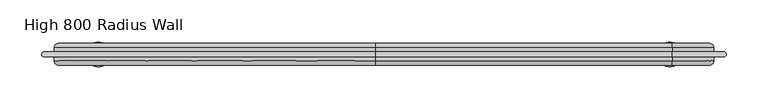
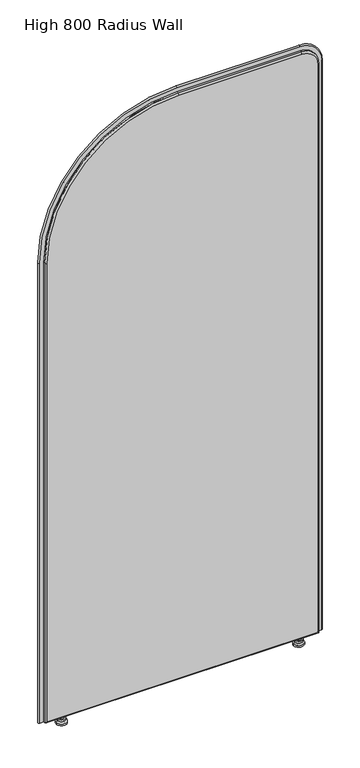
"""IFC4 building model written with IfcOpenShell, lengths in millimetres: furniture geometry, DBLTD_Sixteen3_PrivacyScreens_Artus_ArchRadius : High 800 Radius Wall."""

from ifc_helpers import new_model, si_unit, point, frame, origin, place, context, project, spatial, polyline, circle_curve, ellipse_curve, trimmed, source, transform, mapped, element, save
from ifc_brep_helpers import plane_surface, cylinder_surface, revolved_surface, advanced_brep


def high_800_radius_wall_8716b8e9(model_context):
    return source(origin(), model_context, "Body", "AdvancedBrep", [
        advanced_brep(
        [(342.2938623, 820.0, 22.0), (349.2938623, 820.0, 22.0), (335.2938623, 820.0, 22.0), (349.2938623, 820.0, 15.0), (335.2938623, 820.0, 15.0), (353.744562, 820.0, 15.0), (330.8431626, 820.0, 15.0), (353.744562, 820.0, 10.0), (330.8431626, 820.0, 10.0), (357.2938623, 820.0, 5.0), (327.2938623, 820.0, 5.0), (357.2938623, 820.0, 0.0), (327.2938623, 820.0, 0.0), (342.2938623, 820.0, 0.0)],
        [
            (0, 1),
            (1, 2, circle_curve(frame((342.2938623, 820.0, 22.0), z_axis=(0.0, 0.0, 1.0), x_axis=(1.0, 0.0, 0.0)), 7.0)),
            (2, 0),
            (2, 1, circle_curve(frame((342.2938623, 820.0, 22.0), z_axis=(0.0, 0.0, 1.0), x_axis=(1.0, 0.0, 0.0)), 7.0)),
            (1, 3),
            (3, 4, circle_curve(frame((342.2938623, 820.0, 15.0), z_axis=(0.0, 0.0, 1.0), x_axis=(1.0, 0.0, 0.0)), 7.0)),
            (4, 2),
            (4, 3, circle_curve(frame((342.2938623, 820.0, 15.0), z_axis=(0.0, 0.0, 1.0), x_axis=(1.0, 0.0, 0.0)), 7.0)),
            (3, 5),
            (5, 6, circle_curve(frame((342.2938623, 820.0, 15.0), z_axis=(0.0, 0.0, 1.0), x_axis=(1.0, 0.0, 0.0)), 11.4506997)),
            (6, 4),
            (6, 5, circle_curve(frame((342.2938623, 820.0, 15.0), z_axis=(0.0, 0.0, 1.0), x_axis=(1.0, 0.0, 0.0)), 11.4506997)),
            (5, 7),
            (7, 8, circle_curve(frame((342.2938623, 820.0, 10.0), z_axis=(0.0, 0.0, 1.0), x_axis=(1.0, 0.0, 0.0)), 11.4506997)),
            (8, 6),
            (8, 7, circle_curve(frame((342.2938623, 820.0, 10.0), z_axis=(0.0, 0.0, 1.0), x_axis=(1.0, 0.0, 0.0)), 11.4506997)),
            (7, 9),
            (9, 10, circle_curve(frame((342.2938623, 820.0, 5.0), z_axis=(0.0, 0.0, 1.0), x_axis=(1.0, 0.0, 0.0)), 15.0)),
            (10, 8),
            (10, 9, circle_curve(frame((342.2938623, 820.0, 5.0), z_axis=(0.0, 0.0, 1.0), x_axis=(1.0, 0.0, 0.0)), 15.0)),
            (9, 11),
            (11, 12, circle_curve(frame((342.2938623, 820.0, 0.0), z_axis=(0.0, 0.0, 1.0), x_axis=(1.0, 0.0, 0.0)), 15.0)),
            (12, 10),
            (12, 11, circle_curve(frame((342.2938623, 820.0, 0.0), z_axis=(0.0, 0.0, 1.0), x_axis=(1.0, 0.0, 0.0)), 15.0)),
            (11, 13),
            (13, 12),
        ],
        [
            plane_surface(frame((342.2938623, 820.0, 22.0), z_axis=(0.0, 0.0, 1.0), x_axis=(1.0, 0.0, 0.0))),
            cylinder_surface(frame((342.2938623, 820.0, 5.0), z_axis=(0.0, 0.0, 1.0), x_axis=(1.0, 0.0, 0.0)), 7.0),
            plane_surface(frame((342.2938623, 820.0, 15.0), z_axis=(0.0, 0.0, 1.0), x_axis=(1.0, 0.0, 0.0))),
            cylinder_surface(frame((342.2938623, 820.0, 5.0), z_axis=(0.0, 0.0, 1.0), x_axis=(1.0, 0.0, 0.0)), 11.4506997),
            revolved_surface(polyline([(357.2938623, 820.0, 5.0), (353.744562, 820.0, 10.0)]), (342.2938623, 820.0, 5.0), (0.0, 0.0, 1.0)),
            cylinder_surface(frame((342.2938623, 820.0, 5.0), z_axis=(0.0, 0.0, 1.0), x_axis=(1.0, 0.0, 0.0)), 15.0),
            plane_surface(frame((342.2938623, 820.0, 0.0), z_axis=(0.0, 0.0, -1.0), x_axis=(1.0, 0.0, 0.0))),
        ],
        [
            (0, [[1, 2, 3]]),
            (0, [[-3, 4, -1]]),
            (1, [[-2, 5, 6, 7]]),
            (1, [[-4, -7, 8, -5]]),
            (2, [[-6, 9, 10, 11]]),
            (2, [[-8, -11, 12, -9]]),
            (3, [[-10, 13, 14, 15]]),
            (3, [[-12, -15, 16, -13]]),
            (4, [[-14, 17, 18, 19]]),
            (4, [[-16, -19, 20, -17]]),
            (5, [[-18, 21, 22, 23]]),
            (5, [[-20, -23, 24, -21]]),
            (6, [[-22, 25, 26]]),
            (6, [[-24, -26, -25]]),
        ],
    ),
        advanced_brep(
        [(-335.2938623, 820.0, 22.0), (-349.2938623, 820.0, 22.0), (-342.2938623, 820.0, 22.0), (-335.2938623, 820.0, 15.0), (-349.2938623, 820.0, 15.0), (-330.8431626, 820.0, 15.0), (-353.744562, 820.0, 15.0), (-330.8431626, 820.0, 10.0), (-353.744562, 820.0, 10.0), (-327.2938623, 820.0, 5.0), (-357.2938623, 820.0, 5.0), (-327.2938623, 820.0, 0.0), (-357.2938623, 820.0, 0.0), (-342.2938623, 820.0, 0.0)],
        [
            (0, 1, circle_curve(frame((-342.2938623, 820.0, 22.0), z_axis=(0.0, 0.0, 1.0), x_axis=(-1.0, 0.0, 0.0)), 7.0)),
            (1, 2),
            (2, 0),
            (1, 0, circle_curve(frame((-342.2938623, 820.0, 22.0), z_axis=(0.0, 0.0, 1.0), x_axis=(-1.0, 0.0, 0.0)), 7.0)),
            (3, 4, circle_curve(frame((-342.2938623, 820.0, 15.0), z_axis=(0.0, 0.0, 1.0), x_axis=(-1.0, 0.0, 0.0)), 7.0)),
            (4, 1),
            (0, 3),
            (4, 3, circle_curve(frame((-342.2938623, 820.0, 15.0), z_axis=(0.0, 0.0, 1.0), x_axis=(-1.0, 0.0, 0.0)), 7.0)),
            (5, 6, circle_curve(frame((-342.2938623, 820.0, 15.0), z_axis=(0.0, 0.0, 1.0), x_axis=(-1.0, 0.0, 0.0)), 11.4506997)),
            (6, 4),
            (3, 5),
            (6, 5, circle_curve(frame((-342.2938623, 820.0, 15.0), z_axis=(0.0, 0.0, 1.0), x_axis=(-1.0, 0.0, 0.0)), 11.4506997)),
            (7, 8, circle_curve(frame((-342.2938623, 820.0, 10.0), z_axis=(0.0, 0.0, 1.0), x_axis=(-1.0, 0.0, 0.0)), 11.4506997)),
            (8, 6),
            (5, 7),
            (8, 7, circle_curve(frame((-342.2938623, 820.0, 10.0), z_axis=(0.0, 0.0, 1.0), x_axis=(-1.0, 0.0, 0.0)), 11.4506997)),
            (9, 10, circle_curve(frame((-342.2938623, 820.0, 5.0), z_axis=(0.0, 0.0, 1.0), x_axis=(-1.0, 0.0, 0.0)), 15.0)),
            (10, 8),
            (7, 9),
            (10, 9, circle_curve(frame((-342.2938623, 820.0, 5.0), z_axis=(0.0, 0.0, 1.0), x_axis=(-1.0, 0.0, 0.0)), 15.0)),
            (11, 12, circle_curve(frame((-342.2938623, 820.0, 0.0), z_axis=(0.0, 0.0, 1.0), x_axis=(-1.0, 0.0, 0.0)), 15.0)),
            (12, 10),
            (9, 11),
            (12, 11, circle_curve(frame((-342.2938623, 820.0, 0.0), z_axis=(0.0, 0.0, 1.0), x_axis=(-1.0, 0.0, 0.0)), 15.0)),
            (13, 12),
            (11, 13),
        ],
        [
            plane_surface(frame((-342.2938623, 820.0, 22.0), z_axis=(0.0, 0.0, 1.0), x_axis=(-1.0, 0.0, 0.0))),
            cylinder_surface(frame((-342.2938623, 820.0, 5.0), z_axis=(0.0, 0.0, -1.0), x_axis=(-1.0, 0.0, 0.0)), 7.0),
            plane_surface(frame((-342.2938623, 820.0, 15.0), z_axis=(0.0, 0.0, 1.0), x_axis=(-1.0, 0.0, 0.0))),
            cylinder_surface(frame((-342.2938623, 820.0, 5.0), z_axis=(0.0, 0.0, -1.0), x_axis=(-1.0, 0.0, 0.0)), 11.4506997),
            revolved_surface(polyline([(-353.744562, 820.0, 10.0), (-357.2938623, 820.0, 5.0)]), (-342.2938623, 820.0, 5.0), (0.0, 0.0, -1.0)),
            cylinder_surface(frame((-342.2938623, 820.0, 5.0), z_axis=(0.0, 0.0, -1.0), x_axis=(-1.0, 0.0, 0.0)), 15.0),
            plane_surface(frame((-342.2938623, 820.0, 0.0), z_axis=(0.0, 0.0, -1.0), x_axis=(-1.0, 0.0, 0.0))),
        ],
        [
            (0, [[1, 2, 3]]),
            (0, [[4, -3, -2]]),
            (1, [[5, 6, -1, 7]]),
            (1, [[8, -7, -4, -6]]),
            (2, [[9, 10, -5, 11]]),
            (2, [[12, -11, -8, -10]]),
            (3, [[13, 14, -9, 15]]),
            (3, [[16, -15, -12, -14]]),
            (4, [[17, 18, -13, 19]]),
            (4, [[20, -19, -16, -18]]),
            (5, [[21, 22, -17, 23]]),
            (5, [[24, -23, -20, -22]]),
            (6, [[25, -21, 26]]),
            (6, [[-26, -24, -25]]),
        ],
    ),
        advanced_brep(
        [(-390.0, 807.0, 27.0), (390.0, 807.0, 27.0), (390.0, 807.0, 1760.0), (345.0, 807.0, 1805.0), (-10.0, 807.0, 1805.0), (-390.0, 807.0, 1425.0), (390.0, 833.0, 27.0), (-390.0, 833.0, 27.0), (-390.0, 833.0, 1425.0), (-10.0, 833.0, 1805.0), (345.0, 833.0, 1805.0), (390.0, 833.0, 1760.0), (345.0, 811.9999958, 1810.0), (345.0, 828.0, 1810.0), (-10.0, 828.0, 1810.0), (-10.0, 812.0, 1810.0), (-395.0, 828.0, 1425.0), (-395.0, 811.9999957, 1425.0), (-395.0, 828.0, 22.0), (-395.0, 812.0, 22.0), (395.0, 828.0, 22.0), (395.0, 812.0, 22.0), (395.0, 828.0, 1760.0), (395.0, 812.0, 1760.0)],
        [
            (0, 1),
            (1, 2),
            (2, 3, circle_curve(frame((345.0, 807.0, 1760.0), z_axis=(0.0, -1.0, 0.0), x_axis=(1.0, 0.0, 0.0)), 45.0)),
            (3, 4),
            (4, 5, circle_curve(frame((-10.0, 807.0, 1425.0), z_axis=(0.0, -1.0, 0.0), x_axis=(0.0, 0.0, 1.0)), 380.0)),
            (5, 0),
            (6, 7),
            (7, 8),
            (8, 9, circle_curve(frame((-10.0, 833.0, 1425.0), z_axis=(0.0, 1.0, 0.0), x_axis=(0.0, 0.0, 1.0)), 380.0)),
            (9, 10),
            (10, 11, circle_curve(frame((345.0, 833.0, 1760.0), z_axis=(0.0, 1.0, 0.0), x_axis=(1.0, 0.0, 0.0)), 45.0)),
            (11, 6),
            (12, 13),
            (13, 14),
            (14, 15),
            (15, 12),
            (14, 16, circle_curve(frame((-10.0, 828.0, 1425.0), z_axis=(0.0, -1.0, 0.0), x_axis=(1.0, 0.0, 0.0)), 385.0)),
            (16, 17),
            (17, 15, circle_curve(frame((-10.0, 812.0, 1425.0), z_axis=(0.0, 1.0, 0.0), x_axis=(1.0, 0.0, 0.0)), 385.0)),
            (16, 18),
            (18, 19),
            (19, 17),
            (18, 20),
            (20, 21),
            (21, 19),
            (20, 22),
            (22, 23),
            (23, 21),
            (12, 23, circle_curve(frame((345.0, 812.0, 1760.0), z_axis=(0.0, 1.0, 0.0), x_axis=(1.0, 0.0, 0.0)), 50.0)),
            (22, 13, circle_curve(frame((345.0, 828.0, 1760.0), z_axis=(0.0, -1.0, 0.0), x_axis=(1.0, 0.0, 0.0)), 50.0)),
            (21, 1, ellipse_curve(frame((390.0, 812.0, 27.0), z_axis=(-0.7071067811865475, 0.0, -0.7071067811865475), x_axis=(0.7071067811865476, 0.0, -0.7071067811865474)), 7.0710678, 5.0)),
            (0, 19, ellipse_curve(frame((-390.0, 812.0, 27.0), z_axis=(0.7071067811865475, 0.0, -0.7071067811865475), x_axis=(0.7071067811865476, 0.0, 0.7071067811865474)), 7.0710678, 5.0)),
            (6, 20, ellipse_curve(frame((390.0, 828.0, 27.0), z_axis=(-0.7071067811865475, 0.0, -0.7071067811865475), x_axis=(0.7071067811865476, 0.0, -0.7071067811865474)), 7.0710678, 5.0)),
            (18, 7, ellipse_curve(frame((-390.0, 828.0, 27.0), z_axis=(0.7071067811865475, 0.0, -0.7071067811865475), x_axis=(0.7071067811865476, 0.0, 0.7071067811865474)), 7.0710678, 5.0)),
            (23, 2, circle_curve(frame((390.0, 812.0, 1760.0), z_axis=(0.0, 0.0, -1.0), x_axis=(1.0, 0.0, 0.0)), 5.0)),
            (11, 22, circle_curve(frame((390.0, 828.0, 1760.0), z_axis=(0.0, 0.0, -1.0), x_axis=(1.0, 0.0, 0.0)), 5.0)),
            (12, 3, circle_curve(frame((345.0, 812.0, 1805.0), z_axis=(1.0, 0.0, 0.0), x_axis=(0.0, 0.0, 1.0)), 5.0)),
            (10, 13, circle_curve(frame((345.0, 828.0, 1805.0), z_axis=(1.0, 0.0, 0.0), x_axis=(0.0, 0.0, 1.0)), 5.0)),
            (15, 4, circle_curve(frame((-10.0, 812.0, 1805.0), z_axis=(1.0, 0.0, 0.0), x_axis=(0.0, 0.0, 1.0)), 5.0)),
            (9, 14, circle_curve(frame((-10.0, 828.0, 1805.0), z_axis=(1.0, 0.0, 0.0), x_axis=(0.0, 0.0, 1.0)), 5.0)),
            (17, 5, circle_curve(frame((-390.0, 812.0, 1425.0), z_axis=(0.0, 0.0, 1.0), x_axis=(-1.0, 0.0, 0.0)), 5.0)),
            (8, 16, circle_curve(frame((-390.0, 828.0, 1425.0), z_axis=(0.0, 0.0, 1.0), x_axis=(-1.0, 0.0, 0.0)), 5.0)),
        ],
        [
            plane_surface(frame((-10.0, 807.0, 1810.0), z_axis=(0.0, -1.0, 0.0), x_axis=(-1.0, 0.0, 0.0))),
            plane_surface(frame((-10.0, 833.0, 1810.0), z_axis=(0.0, 1.0, 0.0), x_axis=(1.0, 0.0, 0.0))),
            plane_surface(frame((345.0, 807.0, 1810.0), z_axis=(0.0, 0.0, 1.0), x_axis=(0.0, 1.0, 0.0))),
            cylinder_surface(frame((-10.0, 833.0, 1425.0), z_axis=(0.0, -1.0, 0.0), x_axis=(1.0, 0.0, 0.0)), 385.0),
            plane_surface(frame((-395.0, 807.0, 1425.0), z_axis=(-1.0, 0.0, 0.0), x_axis=(0.0, 1.0, 0.0))),
            plane_surface(frame((-395.0, 807.0, 22.0), z_axis=(0.0, 0.0, -1.0), x_axis=(0.0, 1.0, 0.0))),
            plane_surface(frame((395.0, 807.0, 22.0), z_axis=(1.0, 0.0, 0.0), x_axis=(0.0, 1.0, 0.0))),
            cylinder_surface(frame((345.0, 833.0, 1760.0), z_axis=(0.0, -1.0, 0.0), x_axis=(1.0, 0.0, 0.0)), 50.0),
            cylinder_surface(frame((-395.0, 812.0, 27.0), z_axis=(1.0, 0.0, 0.0), x_axis=(0.0, 0.0, -1.0)), 5.0),
            cylinder_surface(frame((-395.0, 828.0, 27.0), z_axis=(1.0, 0.0, 0.0), x_axis=(0.0, 0.0, -1.0)), 5.0),
            cylinder_surface(frame((390.0, 812.0, 22.0), z_axis=(0.0, 0.0, 1.0), x_axis=(1.0, 0.0, 0.0)), 5.0),
            cylinder_surface(frame((390.0, 828.0, 22.0), z_axis=(0.0, 0.0, 1.0), x_axis=(1.0, 0.0, 0.0)), 5.0),
            revolved_surface(trimmed(ellipse_curve(frame((390.0, 812.0, 1760.0), z_axis=(0.0, 0.0, -1.0), x_axis=(1.0, 0.0, 0.0)), 5.0, 5.0), [point((395.0, 812.0, 1760.0))], [point((390.0, 807.0, 1760.0))], True, "CARTESIAN"), (345.0, 807.0, 1760.0), (0.0, -1.0, 0.0)),
            revolved_surface(trimmed(ellipse_curve(frame((390.0, 828.0, 1760.0), z_axis=(0.0, 0.0, -1.0), x_axis=(1.0, 0.0, 0.0)), 5.0, 5.0), [point((390.0, 833.0, 1760.0))], [point((395.0, 828.0, 1760.0))], True, "CARTESIAN"), (345.0, 807.0, 1760.0), (0.0, -1.0, 0.0)),
            cylinder_surface(frame((345.0, 812.0, 1805.0), z_axis=(-1.0, 0.0, 0.0), x_axis=(0.0, 0.0, 1.0)), 5.0),
            cylinder_surface(frame((345.0, 828.0, 1805.0), z_axis=(-1.0, 0.0, 0.0), x_axis=(0.0, 0.0, 1.0)), 5.0),
            revolved_surface(trimmed(ellipse_curve(frame((-10.0, 812.0, 1805.0), z_axis=(1.0, 0.0, 0.0), x_axis=(0.0, 0.0, 1.0)), 5.0, 5.0), [point((-10.0, 812.0, 1810.0))], [point((-10.0, 807.0, 1805.0))], True, "CARTESIAN"), (-10.0, 807.0, 1425.0), (0.0, -1.0, 0.0)),
            revolved_surface(trimmed(ellipse_curve(frame((-10.0, 828.0, 1805.0), z_axis=(1.0, 0.0, 0.0), x_axis=(0.0, 0.0, 1.0)), 5.0, 5.0), [point((-10.0, 833.0, 1805.0))], [point((-10.0, 828.0, 1810.0))], True, "CARTESIAN"), (-10.0, 807.0, 1425.0), (0.0, -1.0, 0.0)),
            cylinder_surface(frame((-390.0, 812.0, 1425.0), z_axis=(0.0, 0.0, -1.0), x_axis=(-1.0, 0.0, 0.0)), 5.0),
            cylinder_surface(frame((-390.0, 828.0, 1425.0), z_axis=(0.0, 0.0, -1.0), x_axis=(-1.0, 0.0, 0.0)), 5.0),
        ],
        [
            (0, [[1, 2, 3, 4, 5, 6]]),
            (1, [[7, 8, 9, 10, 11, 12]]),
            (2, [[13, 14, 15, 16]]),
            (3, [[-15, 17, 18, 19]]),
            (4, [[-18, 20, 21, 22]]),
            (5, [[-21, 23, 24, 25]]),
            (6, [[-24, 26, 27, 28]]),
            (7, [[-13, 29, -27, 30]]),
            (8, [[31, -1, 32, -25]]),
            (9, [[33, -23, 34, -7]]),
            (10, [[-31, -28, 35, -2]]),
            (11, [[-33, -12, 36, -26]]),
            (12, [[-35, -29, 37, -3]]),
            (13, [[-36, -11, 38, -30]]),
            (14, [[-37, -16, 39, -4]]),
            (15, [[-38, -10, 40, -14]]),
            (16, [[-39, -19, 41, -5]]),
            (17, [[-40, -9, 42, -17]]),
            (18, [[-32, -6, -41, -22]]),
            (19, [[-34, -20, -42, -8]]),
        ],
    ),
        advanced_brep(
        [(406.9577057, 823.0, 22.0), (406.9577057, 817.0, 22.0), (395.0, 817.0, 22.0), (395.0, 823.0, 22.0), (406.9577057, 823.0, 1760.0), (406.9577057, 817.0, 1760.0), (345.0, 817.0, 1821.9577057), (-10.0, 817.0, 1821.9577057), (-406.9577057, 817.0, 1425.0), (-406.9577057, 817.0, 22.0), (-395.0, 817.0, 22.0), (-395.0, 817.0, 1425.0), (-10.0, 817.0, 1810.0), (345.0, 817.0, 1810.0), (395.0, 817.0, 1760.0), (395.0, 823.0, 1760.0), (345.0, 823.0, 1810.0), (-10.0, 823.0, 1810.0), (-395.0, 823.0, 1425.0), (-395.0, 823.0, 22.0), (-406.9577057, 823.0, 22.0), (-406.9577057, 823.0, 1425.0), (-10.0, 823.0, 1821.9577057), (345.0, 823.0, 1821.9577057)],
        [
            (0, 1, circle_curve(frame((406.9577057, 820.0, 22.0), z_axis=(0.0, 0.0, -1.0), x_axis=(1.0, 0.0, 0.0)), 3.0)),
            (1, 2),
            (2, 3),
            (3, 0),
            (0, 4),
            (4, 5, circle_curve(frame((406.9577057, 820.0, 1760.0), z_axis=(0.0, 0.0, -1.0), x_axis=(1.0, 0.0, 0.0)), 3.0)),
            (5, 1),
            (5, 6, circle_curve(frame((345.0, 817.0, 1760.0), z_axis=(0.0, -1.0, 0.0), x_axis=(1.0, 0.0, 0.0)), 61.9577057)),
            (6, 7),
            (7, 8, circle_curve(frame((-10.0, 817.0, 1425.0), z_axis=(0.0, -1.0, 0.0), x_axis=(0.0, 0.0, 1.0)), 396.9577057)),
            (8, 9),
            (9, 10),
            (10, 11),
            (11, 12, circle_curve(frame((-10.0, 817.0, 1425.0), z_axis=(0.0, 1.0, 0.0), x_axis=(0.0, 0.0, 1.0)), 385.0)),
            (12, 13),
            (13, 14, circle_curve(frame((345.0, 817.0, 1760.0), z_axis=(0.0, 1.0, 0.0), x_axis=(1.0, 0.0, 0.0)), 50.0)),
            (14, 2),
            (14, 15),
            (15, 3),
            (15, 16, circle_curve(frame((345.0, 823.0, 1760.0), z_axis=(0.0, -1.0, 0.0), x_axis=(1.0, 0.0, 0.0)), 50.0)),
            (16, 17),
            (17, 18, circle_curve(frame((-10.0, 823.0, 1425.0), z_axis=(0.0, -1.0, 0.0), x_axis=(0.0, 0.0, 1.0)), 385.0)),
            (18, 19),
            (19, 20),
            (20, 21),
            (21, 22, circle_curve(frame((-10.0, 823.0, 1425.0), z_axis=(0.0, 1.0, 0.0), x_axis=(0.0, 0.0, 1.0)), 396.9577057)),
            (22, 23),
            (23, 4, circle_curve(frame((345.0, 823.0, 1760.0), z_axis=(0.0, 1.0, 0.0), x_axis=(1.0, 0.0, 0.0)), 61.9577057)),
            (23, 6, circle_curve(frame((345.0, 820.0, 1821.9577057), z_axis=(1.0, 0.0, 0.0), x_axis=(0.0, 0.0, 1.0)), 3.0)),
            (13, 16),
            (22, 7, circle_curve(frame((-10.0, 820.0, 1821.9577057), z_axis=(1.0, 0.0, 0.0), x_axis=(0.0, 0.0, 1.0)), 3.0)),
            (12, 17),
            (21, 8, circle_curve(frame((-406.9577057, 820.0, 1425.0), z_axis=(0.0, 0.0, 1.0), x_axis=(-1.0, 0.0, 0.0)), 3.0)),
            (11, 18),
            (19, 10),
            (9, 20, circle_curve(frame((-406.9577057, 820.0, 22.0), z_axis=(0.0, 0.0, -1.0), x_axis=(-1.0, 0.0, 0.0)), 3.0)),
        ],
        [
            plane_surface(frame((395.0, 807.0, 22.0), z_axis=(0.0, 0.0, -1.0), x_axis=(1.0, 0.0, 0.0))),
            cylinder_surface(frame((406.9577057, 820.0, 22.0), z_axis=(0.0, 0.0, -1.0), x_axis=(1.0, 0.0, 0.0)), 3.0),
            plane_surface(frame((406.9577057, 817.0, 22.0), z_axis=(0.0, -1.0, 0.0), x_axis=(0.0, 0.0, 1.0))),
            plane_surface(frame((395.0, 817.0, 22.0), z_axis=(-1.0, 0.0, 0.0), x_axis=(0.0, 0.0, 1.0))),
            plane_surface(frame((395.0, 823.0, 22.0), z_axis=(0.0, 1.0, 0.0), x_axis=(0.0, 0.0, 1.0))),
            revolved_surface(trimmed(ellipse_curve(frame((406.9577057, 820.0, 1760.0), z_axis=(0.0, 0.0, -1.0), x_axis=(1.0, 0.0, 0.0)), 3.0, 3.0), [point((406.9577057, 823.0, 1760.0))], [point((406.9577057, 817.0, 1760.0))], True, "CARTESIAN"), (345.0, 807.0, 1760.0), (0.0, -1.0, 0.0)),
            revolved_surface(polyline([(395.0, 817.0, 1760.0), (395.0, 823.0, 1760.0)]), (345.0, 807.0, 1760.0), (0.0, -1.0, 0.0)),
            cylinder_surface(frame((345.0, 820.0, 1821.9577057), z_axis=(1.0, 0.0, 0.0), x_axis=(0.0, 0.0, 1.0)), 3.0),
            plane_surface(frame((345.0, 817.0, 1810.0), z_axis=(0.0, 0.0, -1.0), x_axis=(-1.0, 0.0, 0.0))),
            revolved_surface(trimmed(ellipse_curve(frame((-10.0, 820.0, 1821.9577057), z_axis=(1.0, 0.0, 0.0), x_axis=(0.0, 0.0, 1.0)), 3.0, 3.0), [point((-10.0, 823.0, 1821.9577057))], [point((-10.0, 817.0, 1821.9577057))], True, "CARTESIAN"), (-10.0, 807.0, 1425.0), (0.0, -1.0, 0.0)),
            revolved_surface(polyline([(-10.0, 817.0, 1810.0), (-10.0, 823.0, 1810.0)]), (-10.0, 807.0, 1425.0), (0.0, -1.0, 0.0)),
            plane_surface(frame((-395.0, 807.0, 22.0), z_axis=(0.0, 0.0, -1.0), x_axis=(-1.0, 0.0, 0.0))),
            cylinder_surface(frame((-406.9577057, 820.0, 1425.0), z_axis=(0.0, 0.0, 1.0), x_axis=(-1.0, 0.0, 0.0)), 3.0),
            plane_surface(frame((-395.0, 817.0, 1425.0), z_axis=(1.0, 0.0, 0.0), x_axis=(0.0, 0.0, -1.0))),
        ],
        [
            (0, [[1, 2, 3, 4]]),
            (1, [[-1, 5, 6, 7]]),
            (2, [[-2, -7, 8, 9, 10, 11, 12, 13, 14, 15, 16, 17]]),
            (3, [[-3, -17, 18, 19]]),
            (4, [[-4, -19, 20, 21, 22, 23, 24, 25, 26, 27, 28, -5]]),
            (5, [[-8, -6, -28, 29]]),
            (6, [[-20, -18, -16, 30]]),
            (7, [[-29, -27, 31, -9]]),
            (8, [[-30, -15, 32, -21]]),
            (9, [[-10, -31, -26, 33]]),
            (10, [[-22, -32, -14, 34]]),
            (11, [[-24, 35, -12, 36]]),
            (12, [[-33, -25, -36, -11]]),
            (13, [[-34, -13, -35, -23]]),
        ],
    ),
    ])


if __name__ == "__main__":
    model = new_model("IFC4")
    model_context = context("Model", 3, world=origin())
    ifc_project = project(units=[si_unit("LENGTHUNIT", "METRE", prefix="MILLI")], contexts=[model_context])
    site = spatial("IfcSite", under=ifc_project)
    building = spatial("IfcBuilding", under=site)
    placement = place(None, origin())
    high_800_radius_wall_shape = high_800_radius_wall_8716b8e9(model_context)
    element("IfcFurniture", 1, ObjectType="DBLTD_Sixteen3_PrivacyScreens_Artus_ArchRadius : High 800 Radius Wall", at=placement, inside=building, context=model_context, shape_type="MappedRepresentation", body=[
        mapped(high_800_radius_wall_shape, transform((0.0, 0.0, 0.0), x_axis=(1.0, 0.0, 0.0), y_axis=(0.0, 1.0, 0.0), z_axis=(0.0, 0.0, 1.0))),
    ])
    save(model, "model.ifc")
